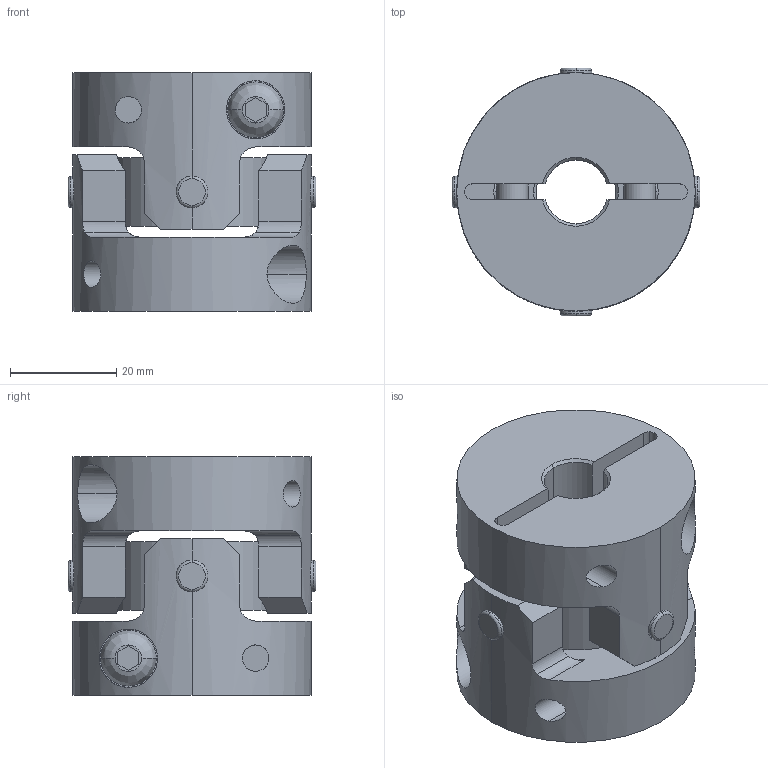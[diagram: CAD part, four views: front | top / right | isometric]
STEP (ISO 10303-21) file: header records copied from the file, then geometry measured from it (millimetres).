
FILE_DESCRIPTION((''),'2;1');
FILE_NAME('UA-45C-12×15.stp','2013-05-22T10:22:58',(''),(''),'AutoCAD STEP 2000i','AutoCAD 2000i',', , ');
FILE_SCHEMA(('CONFIG_CONTROL_DESIGN'));
Length unit declared in the file: millimetre
Products named in the file (6): UA-45C-8×8; 忣兜1; UA-4502-D08-1; BTN-M6; UA-4502-D08; UA45-SEN
Assembly tree (6 placements, depth 3):
  UA-45C-8×8
    忣兜1
    UA-4502-D08-1
      BTN-M6
    UA-4502-D08
      BTN-M6
    UA45-SEN
Bounding box: 46.73 x 46.73 x 45 mm (x, y, z)
Volume: 49506.2 mm3; surface area: 20196.1 mm2
Topology: 1 solids, 1 shells, 206 faces, 554 edges, 364 vertices
Faces by surface type: cylinder 96, plane 78, cone 16, bspline 8, torus 8
Entity records: 8523 total; most frequent: CARTESIAN_POINT 3207, ORIENTED_EDGE 1108, DIRECTION 1064, EDGE_CURVE 554, AXIS2_PLACEMENT_3D 409, VERTEX_POINT 364, VECTOR 246, LINE 246
